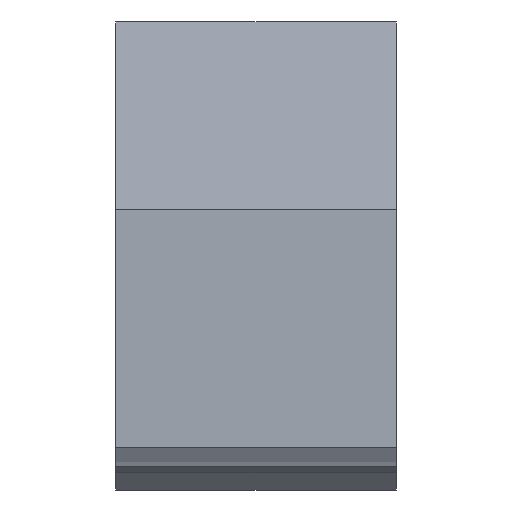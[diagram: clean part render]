
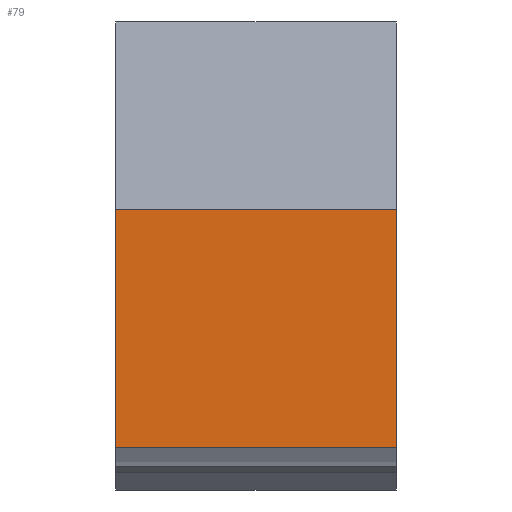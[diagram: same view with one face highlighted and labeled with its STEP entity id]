
A CAD part, left-side view. The second image highlights one B-rep face of the part: STEP entity #79.
In plain terms, the highlighted planar face has unit normal (-1, 0, 0).
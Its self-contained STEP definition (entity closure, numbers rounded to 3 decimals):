
#79 = ADVANCED_FACE( '', ( #108 ), #109, .T. );
#108 = FACE_OUTER_BOUND( '', #158, .T. );
#109 = PLANE( '', #159 );
#158 = EDGE_LOOP( '', ( #242, #243, #244, #245 ) );
#159 = AXIS2_PLACEMENT_3D( '', #246, #247, #248 );
#242 = ORIENTED_EDGE( '', *, *, #408, .F. );
#243 = ORIENTED_EDGE( '', *, *, #383, .F. );
#244 = ORIENTED_EDGE( '', *, *, #400, .T. );
#245 = ORIENTED_EDGE( '', *, *, #409, .T. );
#246 = CARTESIAN_POINT( '', ( -24., -6., -5.199 ) );
#247 = DIRECTION( '', ( -1., 0., 0. ) );
#248 = DIRECTION( '', ( 0., 0., 1. ) );
#383 = EDGE_CURVE( '', #443, #439, #445, .T. );
#400 = EDGE_CURVE( '', #443, #475, #477, .T. );
#408 = EDGE_CURVE( '', #439, #491, #492, .T. );
#409 = EDGE_CURVE( '', #475, #491, #493, .T. );
#439 = VERTEX_POINT( '', #537 );
#443 = VERTEX_POINT( '', #542 );
#445 = LINE( '', #544, #545 );
#475 = VERTEX_POINT( '', #587 );
#477 = LINE( '', #590, #591 );
#491 = VERTEX_POINT( '', #610 );
#492 = LINE( '', #611, #612 );
#493 = LINE( '', #613, #614 );
#537 = CARTESIAN_POINT( '', ( -24., 6., -5.199 ) );
#542 = CARTESIAN_POINT( '', ( -24., -6., -5.199 ) );
#544 = CARTESIAN_POINT( '', ( -24., -6., -5.199 ) );
#545 = VECTOR( '', #687, 1000. );
#587 = CARTESIAN_POINT( '', ( -24., -6., 5. ) );
#590 = CARTESIAN_POINT( '', ( -24., -6., -5.199 ) );
#591 = VECTOR( '', #710, 1000. );
#610 = CARTESIAN_POINT( '', ( -24., 6., 5. ) );
#611 = CARTESIAN_POINT( '', ( -24., 6., -5.199 ) );
#612 = VECTOR( '', #722, 1000. );
#613 = CARTESIAN_POINT( '', ( -24., -6., 5. ) );
#614 = VECTOR( '', #723, 1000. );
#687 = DIRECTION( '', ( 0., 1., 0. ) );
#710 = DIRECTION( '', ( 0., 0., 1. ) );
#722 = DIRECTION( '', ( 0., 0., 1. ) );
#723 = DIRECTION( '', ( 0., 1., 0. ) );
